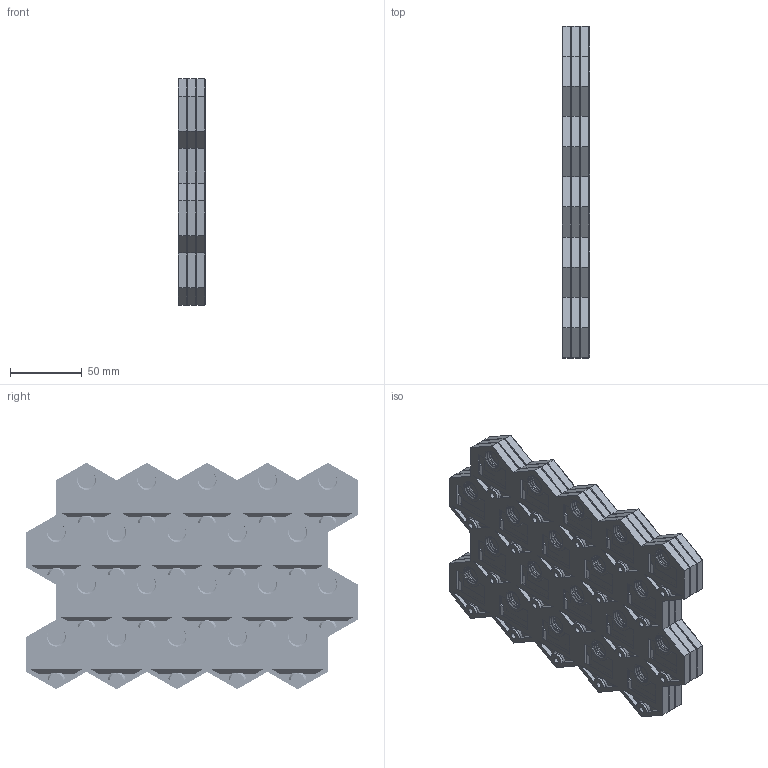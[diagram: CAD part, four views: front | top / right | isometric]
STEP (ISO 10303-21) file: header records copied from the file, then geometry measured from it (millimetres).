
FILE_DESCRIPTION(/* description */ ('','CAx-IF Rec.Pracs.---Representation and Presentation of Product Manufacturing Information (PMI)---4.0---2014-10-13'),/* implementation_level */ '2;1');
FILE_NAME(/* name */ 'GOEWS 4x5 Tile Stack with 0.4mm Spacer.step',/* time_stamp */ '2024-11-29T15:40:19-05:00',/* author */ (''),/* organization */ (''),/* preprocessor_version */ 'ST-DEVELOPER v20',/* originating_system */ 'Autodesk Translation Framework v13.20.0.188',/* authorisation */ '');
FILE_SCHEMA (('AP242_MANAGED_MODEL_BASED_3D_ENGINEERING_MIM_LF { 1 0 10303 442 1 1 4 }'));
Products named in the file (1): GOEWS Parametric Tile Stack with Spacer
Bounding box: 18.8 x 231 x 157.62 mm (x, y, z)
Volume: 299279.4 mm3; surface area: 330007.8 mm2
Topology: 5 solids, 5 shells, 3237 faces, 8901 edges, 5734 vertices
Faces by surface type: plane 2217, cylinder 720, cone 180, bspline 120
Full cylindrical faces by diameter (mm): 4 x60, 8 x60, 12.322 x120, 14.55 x120
Entity records: 171671 total; most frequent: CARTESIAN_POINT 91673, ORIENTED_EDGE 17802, DIRECTION 14537, EDGE_CURVE 8901, LINE 6381, VECTOR 6381, VERTEX_POINT 5734, AXIS2_PLACEMENT_3D 4078
